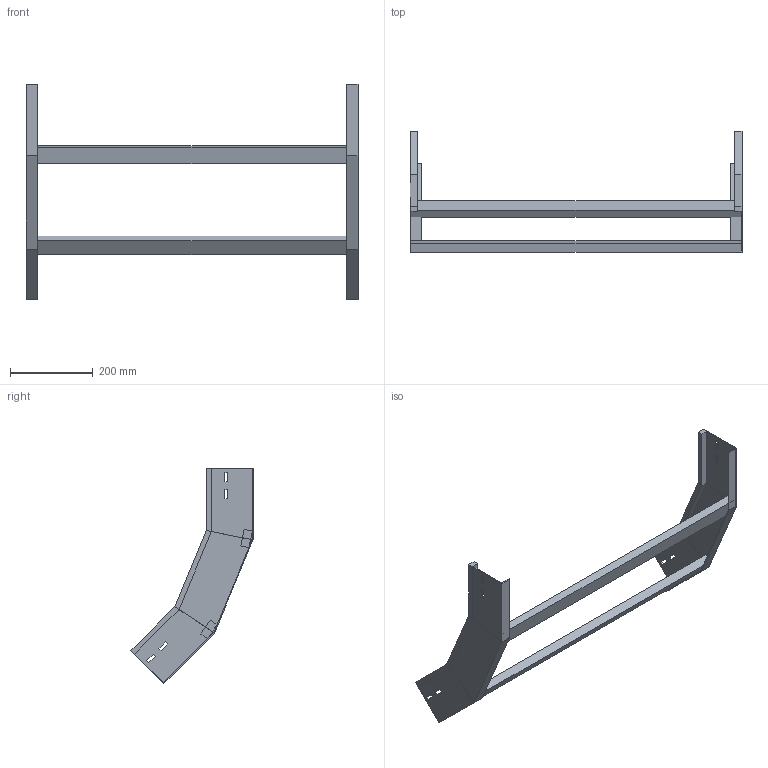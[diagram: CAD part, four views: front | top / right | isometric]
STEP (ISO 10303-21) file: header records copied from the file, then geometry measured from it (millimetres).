
FILE_DESCRIPTION (( 'STEP AP214' ), '1' );
FILE_NAME ('B2X31B5J800XX.step', '2025-03-20T10:08:40', ( '' ), ( '' ), 'SwSTEP 2.0', 'SolidWorks 2023', '' );
FILE_SCHEMA (( 'AUTOMOTIVE_DESIGN' ));
Length unit declared in the file: millimetre
Products named in the file (3): TRAVERSINO_800; B2X31B5J800XX; LONGH.SALITA_45°_H112.5_R500
Assembly tree (4 placements, depth 2):
  B2X31B5J800XX
    LONGH.SALITA_45°_H112.5_R500  x2
    TRAVERSINO_800  x2
Bounding box: 800 x 294.27 x 518.39 mm (x, y, z)
Volume: 1782835.9 mm3; surface area: 535504 mm2
Topology: 4 solids, 4 shells, 96 faces, 232 edges, 144 vertices
Faces by surface type: plane 96
Entity records: 1472 total; most frequent: CARTESIAN_POINT 243, ORIENTED_EDGE 232, DIRECTION 226, VECTOR 116, EDGE_CURVE 116, LINE 116, VERTEX_POINT 72, EDGE_LOOP 56
